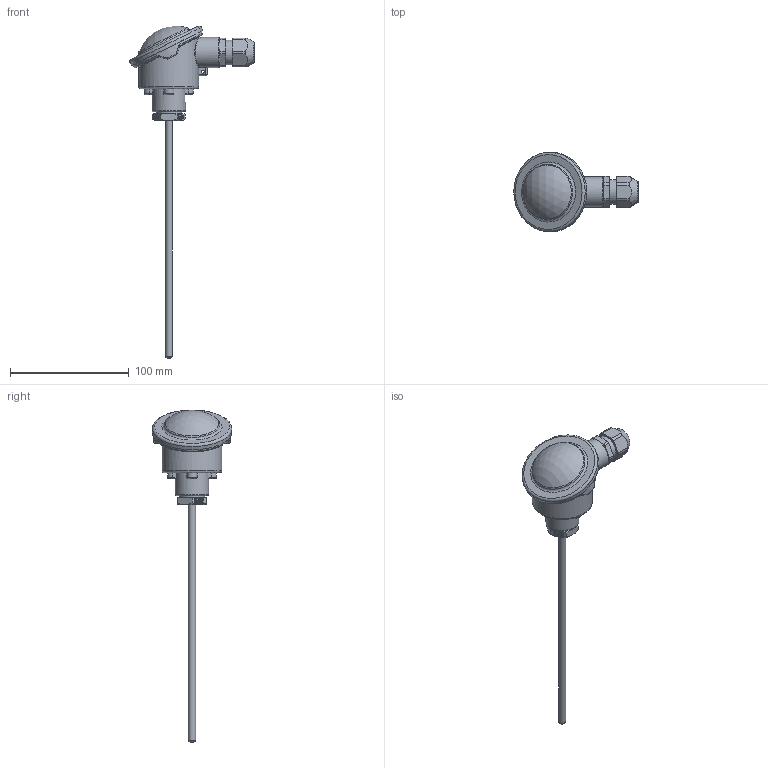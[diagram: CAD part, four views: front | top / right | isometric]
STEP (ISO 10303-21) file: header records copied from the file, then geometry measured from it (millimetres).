
FILE_DESCRIPTION(/* description */ (''),/* implementation_level */ '2;1');
FILE_NAME(/* name */ 'C:/Users/Admin/Desktop/MWT_220 v7.step',/* time_stamp */ '2022-04-08T07:17:09+02:00',/* author */ (''),/* organization */ (''),/* preprocessor_version */ 'ST-DEVELOPER v18.1',/* originating_system */ 'Autodesk Translation Framework v10.13.0.1454',/* authorisation */ '');
FILE_SCHEMA (('AUTOMOTIVE_DESIGN { 1 0 10303 214 3 1 1 }'));
Length unit declared in the file: millimetre
Products named in the file (1): MWT_220
Bounding box: 104.89 x 67 x 279.85 mm (x, y, z)
Volume: 73384.4 mm3; surface area: 42679.4 mm2
Topology: 3 solids, 3 shells, 565 faces, 1511 edges, 997 vertices
Faces by surface type: plane 315, bspline 161, cylinder 49, torus 18, cone 17, sphere 5
Full cylindrical faces by diameter (mm): 2.5 x1, 4.5 x1, 6 x1, 6.5 x1, 13.3 x1, 14.5 x1, 18.526 x1, 19.85 x1, 20 x1, 20.9 x1, 21.5 x1, 22.526 x1, 23.85 x1, 25.5 x1, 28.2 x1, 47 x1, 50 x1, 50.5 x1, 64.5 x1, 67 x1
Entity records: 22130 total; most frequent: CARTESIAN_POINT 8961, ORIENTED_EDGE 3022, DIRECTION 2133, EDGE_CURVE 1511, VERTEX_POINT 997, LINE 941, VECTOR 941, EDGE_LOOP 616
